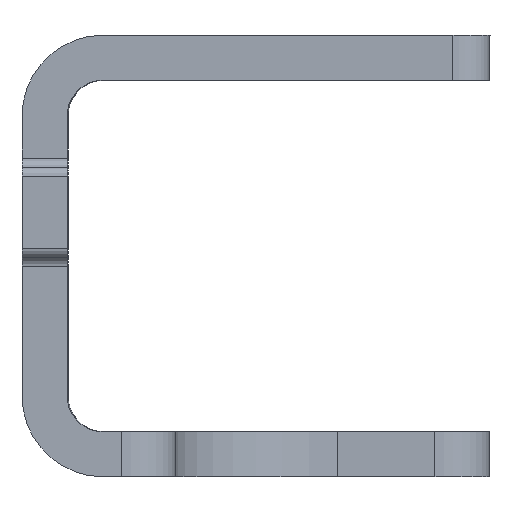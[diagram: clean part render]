
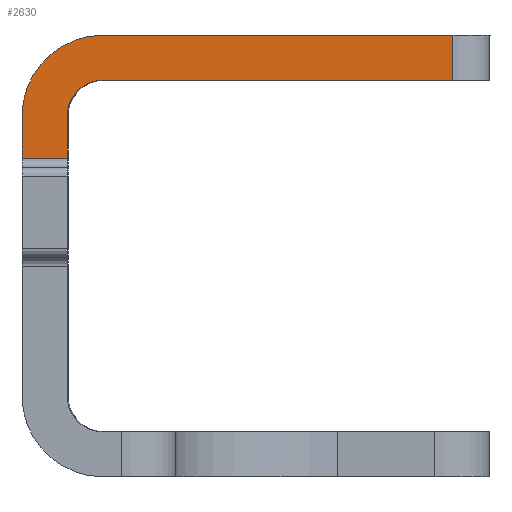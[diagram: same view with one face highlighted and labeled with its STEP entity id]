
A CAD part, left-side view. The second image highlights one B-rep face of the part: STEP entity #2630.
In plain terms, the highlighted planar face has unit normal (-1, 0, 0).
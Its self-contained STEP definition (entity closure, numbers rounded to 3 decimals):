
#1562=AXIS2_PLACEMENT_3D('Plane Axis2P3D',#1559,#1560,#1561) ;
#1784=AXIS2_PLACEMENT_3D('Circle Axis2P3D',#1782,#1783,$) ;
#2605=AXIS2_PLACEMENT_3D('Circle Axis2P3D',#2603,#2604,$) ;
#1559=CARTESIAN_POINT('Axis2P3D Location',(1042.156,-453.036,178.853)) ;
#1746=CARTESIAN_POINT('Vertex',(1042.156,-452.997,172.028)) ;
#1753=CARTESIAN_POINT('Vertex',(1042.156,-455.497,172.028)) ;
#1756=CARTESIAN_POINT('Line Origine',(1042.155,-464.969,172.028)) ;
#1779=CARTESIAN_POINT('Vertex',(1042.156,-452.997,174.353)) ;
#1782=CARTESIAN_POINT('Axis2P3D Location',(1042.156,-457.497,174.353)) ;
#1786=CARTESIAN_POINT('Vertex',(1042.156,-457.497,178.853)) ;
#2530=CARTESIAN_POINT('Vertex',(1042.154,-476.903,178.853)) ;
#2533=CARTESIAN_POINT('Line Origine',(1042.154,-476.903,169.028)) ;
#2537=CARTESIAN_POINT('Vertex',(1042.154,-476.903,176.353)) ;
#2591=CARTESIAN_POINT('Line Origine',(1042.156,-452.997,173.191)) ;
#2596=CARTESIAN_POINT('Line Origine',(1042.156,-455.497,173.191)) ;
#2600=CARTESIAN_POINT('Vertex',(1042.156,-455.497,174.353)) ;
#2603=CARTESIAN_POINT('Axis2P3D Location',(1042.156,-457.497,174.353)) ;
#2607=CARTESIAN_POINT('Vertex',(1042.156,-457.497,176.353)) ;
#2610=CARTESIAN_POINT('Line Origine',(1042.155,-467.2,176.353)) ;
#2615=CARTESIAN_POINT('Line Origine',(1042.155,-467.2,178.853)) ;
#1560=DIRECTION('Axis2P3D Direction',(1.,0.,0.)) ;
#1561=DIRECTION('Axis2P3D XDirection',(0.,-1.,0.)) ;
#1757=DIRECTION('Vector Direction',(0.,-1.,0.)) ;
#1783=DIRECTION('Axis2P3D Direction',(-1.,0.,0.)) ;
#2534=DIRECTION('Vector Direction',(0.,0.,-1.)) ;
#2592=DIRECTION('Vector Direction',(0.,0.,-1.)) ;
#2597=DIRECTION('Vector Direction',(0.,0.,-1.)) ;
#2604=DIRECTION('Axis2P3D Direction',(1.,0.,0.)) ;
#2611=DIRECTION('Vector Direction',(0.,-1.,0.)) ;
#2616=DIRECTION('Vector Direction',(0.,1.,0.)) ;
#1758=VECTOR('Line Direction',#1757,1.) ;
#2535=VECTOR('Line Direction',#2534,1.) ;
#2593=VECTOR('Line Direction',#2592,1.) ;
#2598=VECTOR('Line Direction',#2597,1.) ;
#2612=VECTOR('Line Direction',#2611,1.) ;
#2617=VECTOR('Line Direction',#2616,1.) ;
#2621=ORIENTED_EDGE('',*,*,#1788,.F.) ;
#2622=ORIENTED_EDGE('',*,*,#2595,.T.) ;
#2623=ORIENTED_EDGE('',*,*,#1760,.T.) ;
#2624=ORIENTED_EDGE('',*,*,#2602,.F.) ;
#2625=ORIENTED_EDGE('',*,*,#2609,.T.) ;
#2626=ORIENTED_EDGE('',*,*,#2614,.T.) ;
#2627=ORIENTED_EDGE('',*,*,#2539,.F.) ;
#2628=ORIENTED_EDGE('',*,*,#2619,.T.) ;
#2630=ADVANCED_FACE('\X2\51E04F554F53\X0\.11',(#2629),#1563,.F.) ;
#1785=CIRCLE('generated circle',#1784,4.5) ;
#2606=CIRCLE('generated circle',#2605,2.) ;
#1760=EDGE_CURVE('',#1747,#1754,#1759,.T.) ;
#1788=EDGE_CURVE('',#1780,#1787,#1785,.F.) ;
#2539=EDGE_CURVE('',#2531,#2538,#2536,.T.) ;
#2595=EDGE_CURVE('',#1780,#1747,#2594,.T.) ;
#2602=EDGE_CURVE('',#2601,#1754,#2599,.T.) ;
#2609=EDGE_CURVE('',#2601,#2608,#2606,.T.) ;
#2614=EDGE_CURVE('',#2608,#2538,#2613,.T.) ;
#2619=EDGE_CURVE('',#2531,#1787,#2618,.T.) ;
#2620=EDGE_LOOP('',(#2621,#2622,#2623,#2624,#2625,#2626,#2627,#2628)) ;
#2629=FACE_OUTER_BOUND('',#2620,.T.) ;
#1759=LINE('Line',#1756,#1758) ;
#2536=LINE('Line',#2533,#2535) ;
#2594=LINE('Line',#2591,#2593) ;
#2599=LINE('Line',#2596,#2598) ;
#2613=LINE('Line',#2610,#2612) ;
#2618=LINE('Line',#2615,#2617) ;
#1563=PLANE('Plane',#1562) ;
#1747=VERTEX_POINT('',#1746) ;
#1754=VERTEX_POINT('',#1753) ;
#1780=VERTEX_POINT('',#1779) ;
#1787=VERTEX_POINT('',#1786) ;
#2531=VERTEX_POINT('',#2530) ;
#2538=VERTEX_POINT('',#2537) ;
#2601=VERTEX_POINT('',#2600) ;
#2608=VERTEX_POINT('',#2607) ;
